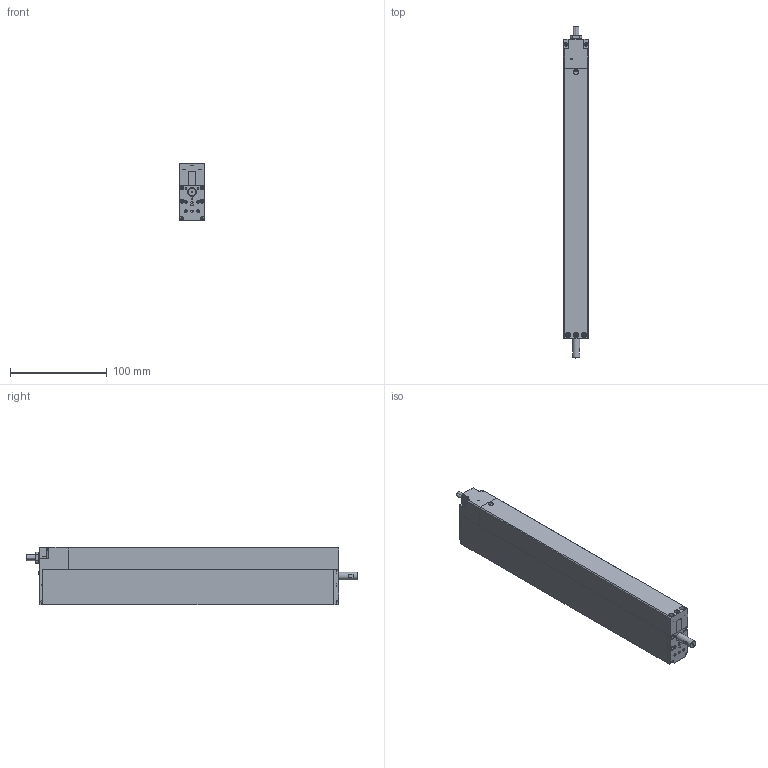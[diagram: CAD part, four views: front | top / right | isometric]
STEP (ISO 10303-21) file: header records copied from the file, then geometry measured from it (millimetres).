
FILE_DESCRIPTION((''),'2;1');
FILE_NAME('C:\smac-cad\WEB UPDATE SOLID MODELS\DEC2012\LCA25-200-1_A.stp','2012-12-05T15:14:14',('karl'),(''),'Autodesk Inventor 2008','Autodesk Inventor 2008','');
FILE_SCHEMA(('AUTOMOTIVE_DESIGN { 1 0 10303 214 1 1 1 1 }'));
Length unit declared in the file: millimetre
Products named in the file (13): LCA25-200_A; LCA25-250-MAG_A; 14706-01_A2; 14706-02_B; CABLE-G_B; Broached Socket Head Cap Screw - Metric M2x0.4 x 3; LCA25-XXX-PIS_B; 16561-01_A; 11603-01_B2; 11604-01_C1; LCA25-COVER; 23622-01_B3; BUMPER
Assembly tree (16 placements, depth 3):
  LCA25-200_A
    LCA25-250-MAG_A
      14706-01_A2
      14706-02_B
    CABLE-G_B
    Broached Socket Head Cap Screw - Metric M2x0.4 x 3  x4
    LCA25-XXX-PIS_B
      16561-01_A
    11603-01_B2
    11604-01_C1
    LCA25-COVER
      23622-01_B3
      BUMPER
      CABLE-G_B
Bounding box: 25 x 343.5 x 60 mm (x, y, z)
Volume: 474404.1 mm3; surface area: 101276.2 mm2
Topology: 13 solids, 13 shells, 611 faces, 1533 edges, 976 vertices
Faces by surface type: plane 329, cylinder 174, cone 84, torus 20, bspline 4
Full cylindrical faces by diameter (mm): 1.5 x1, 1.567 x20, 2 x4, 2.013 x5, 2.4 x14, 2.459 x18, 2.5 x2, 2.9 x3, 3 x7, 3.5 x1, 3.8 x4, 4 x1, 4.4 x2, 4.5 x1, 5 x1, 5.5 x4, 8 x1, 9 x1, 11.1 x2, 11.5 x1, 14 x1
Entity records: 15755 total; most frequent: CARTESIAN_POINT 2909, DIRECTION 2629, ORIENTED_EDGE 2296, EDGE_CURVE 1148, AXIS2_PLACEMENT_3D 956, VERTEX_POINT 818, EDGE_LOOP 771, VECTOR 717
